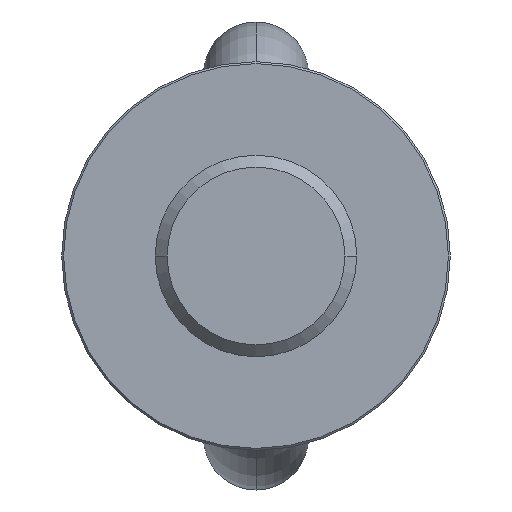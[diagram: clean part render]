
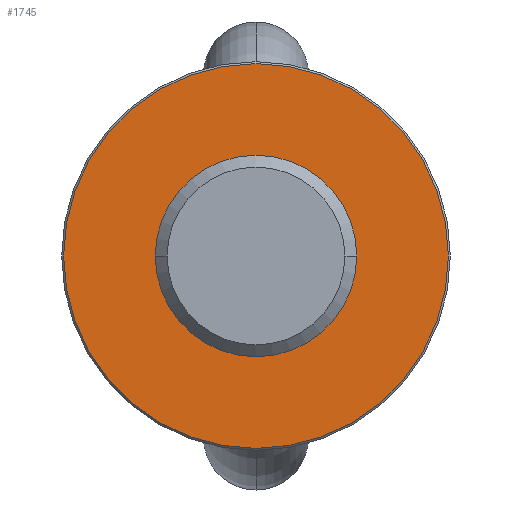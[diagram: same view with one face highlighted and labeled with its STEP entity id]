
A CAD part, front view. The second image highlights one B-rep face of the part: STEP entity #1745.
In plain terms, the highlighted planar face has unit normal (0, -1, 0).
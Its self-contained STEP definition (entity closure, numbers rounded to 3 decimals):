
#5=CARTESIAN_POINT('',(0.,0.,0.));
#6=DIRECTION('',(0.,1.,0.));
#7=DIRECTION('',(1.,0.,0.));
#8=AXIS2_PLACEMENT_3D('',#5,#6,#7);
#14=CARTESIAN_POINT('',(0.,0.,0.));
#15=DIRECTION('',(0.,-1.,0.));
#16=DIRECTION('',(1.,0.,0.));
#17=AXIS2_PLACEMENT_3D('',#14,#15,#16);
#52=CARTESIAN_POINT('',(0.,0.,0.));
#53=DIRECTION('',(0.,-1.,0.));
#54=DIRECTION('',(1.,0.,0.));
#55=AXIS2_PLACEMENT_3D('',#52,#53,#54);
#1323=CARTESIAN_POINT('',(0.,0.,0.));
#1324=DIRECTION('',(0.,1.,0.));
#1325=DIRECTION('',(1.,0.,0.));
#1326=AXIS2_PLACEMENT_3D('',#1323,#1324,#1325);
#1376=CARTESIAN_POINT('',(48.5,0.,0.));
#1377=CARTESIAN_POINT('',(-48.5,0.,0.));
#1378=VERTEX_POINT('',#1376);
#1379=VERTEX_POINT('',#1377);
#1384=CARTESIAN_POINT('',(25.4,0.,0.));
#1386=VERTEX_POINT('',#1384);
#1388=CARTESIAN_POINT('',(-25.4,0.,0.));
#1390=VERTEX_POINT('',#1388);
#1728=CARTESIAN_POINT('',(0.,0.,0.));
#1729=DIRECTION('',(0.,-1.,0.));
#1730=DIRECTION('',(-1.,0.,0.));
#1731=AXIS2_PLACEMENT_3D('',#1728,#1729,#1730);
#1732=PLANE('',#1731);
#1734=ORIENTED_EDGE('',*,*,#1733,.F.);
#1736=ORIENTED_EDGE('',*,*,#1735,.T.);
#1737=EDGE_LOOP('',(#1734,#1736));
#1738=FACE_OUTER_BOUND('',#1737,.F.);
#1740=ORIENTED_EDGE('',*,*,#1739,.F.);
#1742=ORIENTED_EDGE('',*,*,#1741,.T.);
#1743=EDGE_LOOP('',(#1740,#1742));
#1744=FACE_BOUND('',#1743,.F.);
#1745=ADVANCED_FACE('',(#1738,#1744),#1732,.T.);
#9=CIRCLE('',#8,25.4);
#18=CIRCLE('',#17,25.4);
#56=CIRCLE('',#55,48.5);
#1327=CIRCLE('',#1326,48.5);
#1733=EDGE_CURVE('',#1378,#1379,#56,.T.);
#1735=EDGE_CURVE('',#1378,#1379,#1327,.T.);
#1739=EDGE_CURVE('',#1386,#1390,#9,.T.);
#1741=EDGE_CURVE('',#1386,#1390,#18,.T.);
